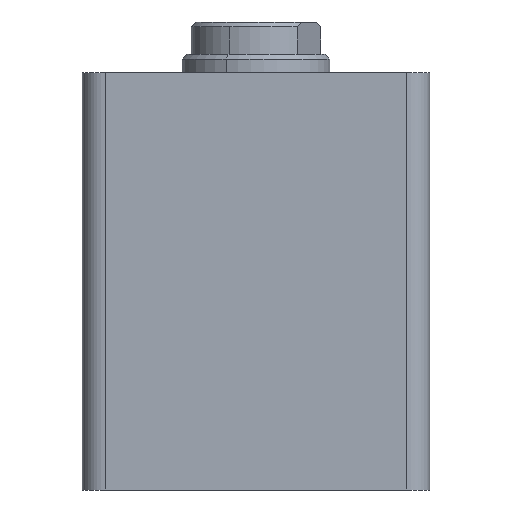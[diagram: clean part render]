
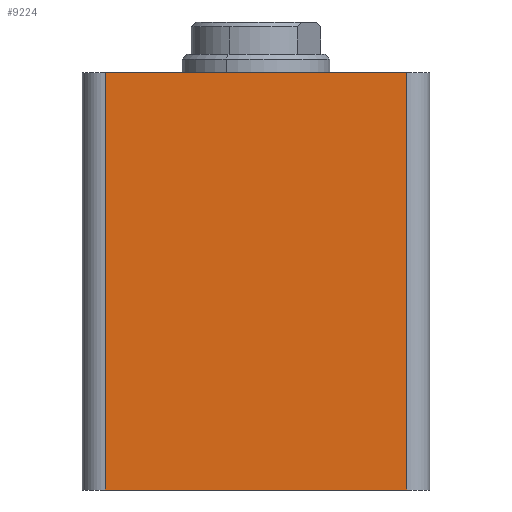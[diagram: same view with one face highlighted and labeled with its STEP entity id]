
A CAD part, front view. The second image highlights one B-rep face of the part: STEP entity #9224.
In plain terms, the highlighted planar face has unit normal (0, -1, 0).
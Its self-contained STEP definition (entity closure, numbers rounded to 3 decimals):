
#1146 = EDGE_CURVE ( 'NONE', #20429, #8114, #12739, .T. ) ;
#2078 = CARTESIAN_POINT ( 'NONE',  ( 5., 0., 0. ) ) ;
#2686 = DIRECTION ( 'NONE',  ( 0., 0., 1. ) ) ;
#3429 = ORIENTED_EDGE ( 'NONE', *, *, #23833, .T. ) ;
#3453 = VERTEX_POINT ( 'NONE', #21497 ) ;
#3813 = CARTESIAN_POINT ( 'NONE',  ( 5., 0., 90. ) ) ;
#4893 = VERTEX_POINT ( 'NONE', #23579 ) ;
#5246 = DIRECTION ( 'NONE',  ( 0., 0., 1. ) ) ;
#6461 = CARTESIAN_POINT ( 'NONE',  ( 70., 0., 90. ) ) ;
#8114 = VERTEX_POINT ( 'NONE', #14098 ) ;
#8727 = EDGE_CURVE ( 'NONE', #8114, #4893, #21869, .T. ) ;
#8954 = CARTESIAN_POINT ( 'NONE',  ( 0., 0., 0. ) ) ;
#9224 = ADVANCED_FACE ( 'NONE', ( #10108 ), #17797, .F. ) ;
#10107 = AXIS2_PLACEMENT_3D ( 'NONE', #22427, #10945, #5246 ) ;
#10108 = FACE_OUTER_BOUND ( 'NONE', #18303, .T. ) ;
#10719 = ORIENTED_EDGE ( 'NONE', *, *, #10996, .F. ) ;
#10945 = DIRECTION ( 'NONE',  ( 0., 1., 0. ) ) ;
#10996 = EDGE_CURVE ( 'NONE', #3453, #4893, #24080, .T. ) ;
#11176 = ORIENTED_EDGE ( 'NONE', *, *, #8727, .T. ) ;
#11756 = LINE ( 'NONE', #3813, #14257 ) ;
#12225 = VECTOR ( 'NONE', #20437, 1000. ) ;
#12739 = LINE ( 'NONE', #8954, #12225 ) ;
#14098 = CARTESIAN_POINT ( 'NONE',  ( 70., 0., 0. ) ) ;
#14257 = VECTOR ( 'NONE', #19584, 1000. ) ;
#15869 = VECTOR ( 'NONE', #18395, 1000. ) ;
#16713 = ORIENTED_EDGE ( 'NONE', *, *, #1146, .T. ) ;
#17797 = PLANE ( 'NONE',  #10107 ) ;
#18150 = CARTESIAN_POINT ( 'NONE',  ( 0., 0., 90. ) ) ;
#18303 = EDGE_LOOP ( 'NONE', ( #16713, #11176, #10719, #3429 ) ) ;
#18395 = DIRECTION ( 'NONE',  ( 1., 0., 0. ) ) ;
#19584 = DIRECTION ( 'NONE',  ( 0., 0., -1. ) ) ;
#20177 = VECTOR ( 'NONE', #2686, 1000. ) ;
#20429 = VERTEX_POINT ( 'NONE', #2078 ) ;
#20437 = DIRECTION ( 'NONE',  ( 1., 0., 0. ) ) ;
#21497 = CARTESIAN_POINT ( 'NONE',  ( 5., 0., 90. ) ) ;
#21869 = LINE ( 'NONE', #6461, #20177 ) ;
#22427 = CARTESIAN_POINT ( 'NONE',  ( 0., 0., 90. ) ) ;
#23579 = CARTESIAN_POINT ( 'NONE',  ( 70., 0., 90. ) ) ;
#23833 = EDGE_CURVE ( 'NONE', #3453, #20429, #11756, .T. ) ;
#24080 = LINE ( 'NONE', #18150, #15869 ) ;
